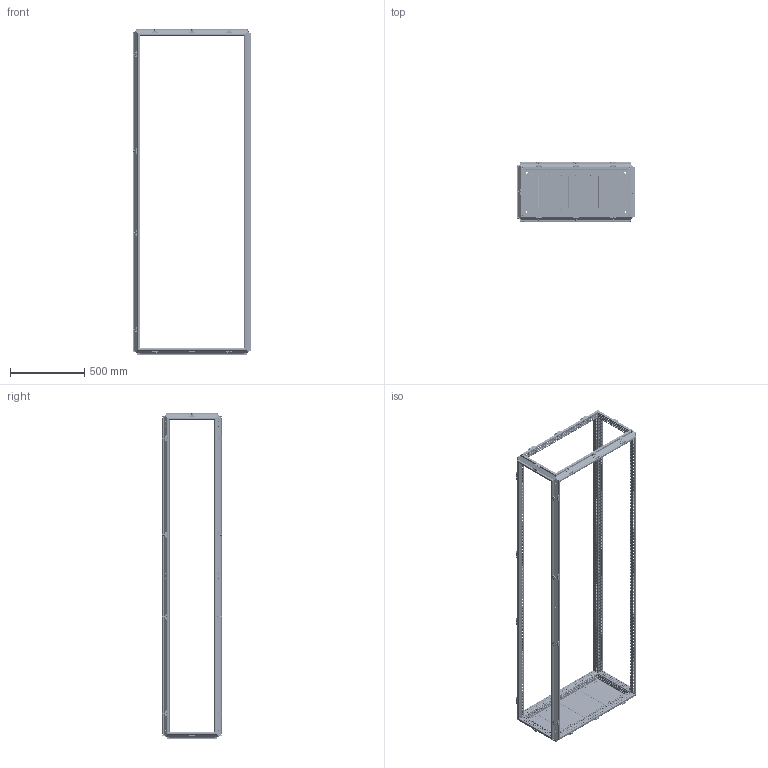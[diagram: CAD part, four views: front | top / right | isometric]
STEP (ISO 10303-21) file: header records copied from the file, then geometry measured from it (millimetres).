
FILE_DESCRIPTION(('STEP AP203'), '1');
FILE_NAME('3000 忺謤僔 捘', '', ('UNSPECIFIED'), ('UNSPECIFIED'), 'C3D Converter', 'C3D Toolkit', '');
FILE_SCHEMA(('CONFIG_CONTROL_DESIGN'));
Length unit declared in the file: millimetre
Products named in the file (13): 3000.220.40.80 СБ; 3000; 3007.175; 3007.75; 3007.200; 3009.04; 3009.04.01; 3009.04.2; 3009.04.01.2
Assembly tree (139 placements, depth 3):
  3000.220.40.80 СБ
    3000
    (unnamed)  x88
    3007.175
    (unnamed)  x14
    3007.75
    3007.200  x2
    3009.04  x8
      3009.04.01
      (unnamed)
      (unnamed)
    3009.04.2  x15
      3009.04.01.2
      (unnamed)
      (unnamed)
Bounding box: 797 x 397 x 2198.5 mm (x, y, z)
Volume: 3680677 mm3; surface area: 4911263.3 mm2
Topology: 230 solids, 230 shells, 17501 faces, 49091 edges, 32388 vertices
Faces by surface type: plane 12255, cylinder 4278, cone 640, torus 244, bspline 84
Full cylindrical faces by diameter (mm): 4.134 x126, 4.5 x1972, 4.8 x14, 5 x134, 5.8 x38, 6.8 x176, 7 x88, 7.5 x46, 8 x88, 9.2 x46, 10.106 x8, 14 x4
Entity records: 397947 total; most frequent: CARTESIAN_POINT 72460, ORIENTED_EDGE 64134, DIRECTION 60671, EDGE_CURVE 32067, LINE 26411, VECTOR 26411, VERTEX_POINT 22594, EDGE_LOOP 21847
